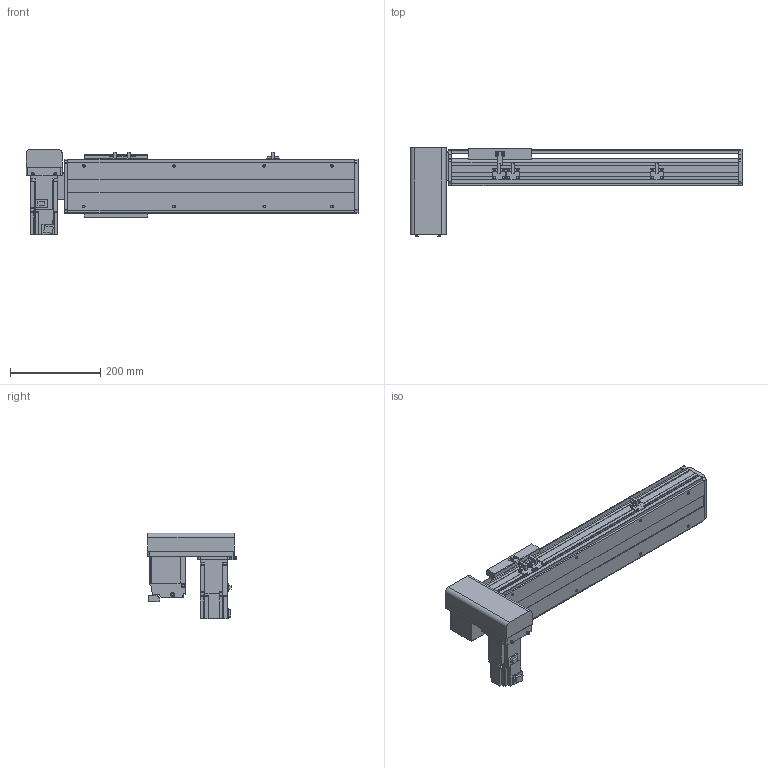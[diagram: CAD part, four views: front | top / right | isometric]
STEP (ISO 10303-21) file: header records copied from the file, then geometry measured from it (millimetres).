
FILE_DESCRIPTION(/* description */ ('STEP AP214'),/* implementation_level */ '2;1');
FILE_NAME(/* name */ 'PBS120-P40-S350-RD-T40-C1-N(0)',/* time_stamp */ '2022-06-06T02:40:41+02:00',/* author */ ('License CC BY-ND 4.0'),/* organization */ ('CADENAS'),/* preprocessor_version */ 'ST-DEVELOPER v18.102',/* originating_system */ 'PARTsolutions',/* authorisation */ ' ');
FILE_SCHEMA (('AUTOMOTIVE_DESIGN {1 0 10303 214 3 1 1}'));
Length unit declared in the file: millimetre
Products named in the file (7): PBS120-P40-S350-RD-T40-C1-N(0); PBS120_sensor; PBS120_plant; PBS120_sliser; T40-p1; PBS120T-RD_motors; PBS120-S350()_body
Assembly tree (8 placements, depth 2):
  PBS120-P40-S350-RD-T40-C1-N(0)
    PBS120_sensor  x3
    PBS120_plant
    PBS120_sliser
    T40-p1
    PBS120T-RD_motors
    PBS120-S350()_body
Bounding box: 736 x 196 x 189.7 mm (x, y, z)
Volume: 3845577.6 mm3; surface area: 696931.9 mm2
Topology: 8 solids, 8 shells, 804 faces, 2116 edges, 1363 vertices
Faces by surface type: plane 541, cylinder 221, cone 40, torus 2
Full cylindrical faces by diameter (mm): 2.459 x6, 3.242 x4, 4 x2, 4.134 x4, 4.5 x10, 4.917 x12, 5.5 x11, 6 x2, 6.6 x1, 7 x2, 8.5 x4, 9 x4, 12 x1, 14 x1, 30 x2, 40 x1, 50 x2
Entity records: 21114 total; most frequent: DIRECTION 3644, CARTESIAN_POINT 3605, ORIENTED_EDGE 3454, EDGE_CURVE 1727, LINE 1228, VECTOR 1228, AXIS2_PLACEMENT_3D 1208, VERTEX_POINT 1169
